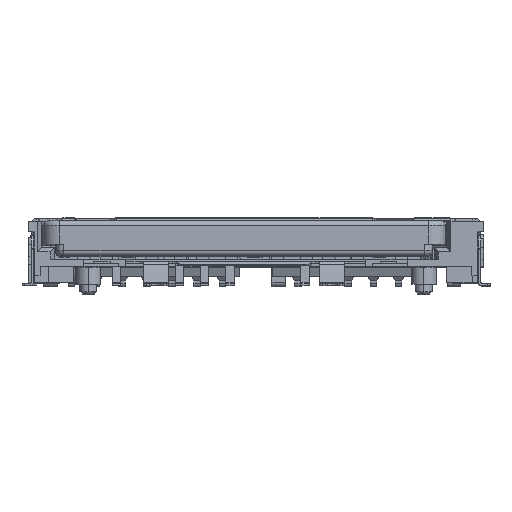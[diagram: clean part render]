
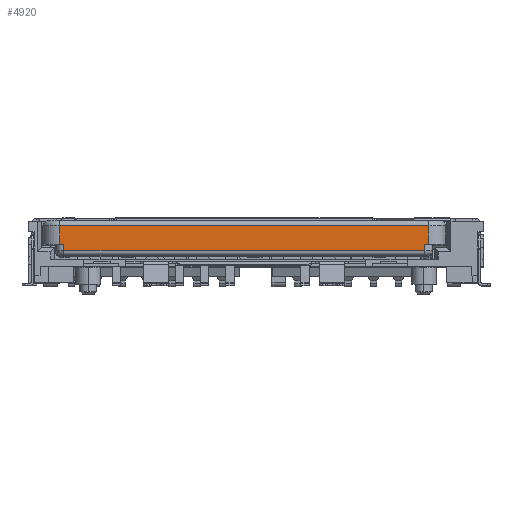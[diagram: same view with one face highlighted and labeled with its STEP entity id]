
A CAD part, top view. The second image highlights one B-rep face of the part: STEP entity #4920.
In plain terms, the highlighted planar face has unit normal (0, 0, 1).
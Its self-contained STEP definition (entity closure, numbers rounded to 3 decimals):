
#879=DIRECTION('',(-1.,0.,0.));
#880=VECTOR('',#879,21.5);
#881=CARTESIAN_POINT('',(10.75,-0.4,16.));
#882=LINE('',#881,#880);
#1725=DIRECTION('',(1.,0.,0.));
#1726=VECTOR('',#1725,22.);
#1727=CARTESIAN_POINT('',(-11.,1.1,16.));
#1728=LINE('',#1727,#1726);
#1756=DIRECTION('',(0.,1.,0.));
#1757=VECTOR('',#1756,1.1);
#1758=CARTESIAN_POINT('',(-11.,0.,16.));
#1759=LINE('',#1758,#1757);
#1768=DIRECTION('',(0.,1.,0.));
#1769=VECTOR('',#1768,0.4);
#1770=CARTESIAN_POINT('',(-10.75,-0.4,16.));
#1771=LINE('',#1770,#1769);
#1772=DIRECTION('',(-1.,0.,0.));
#1773=VECTOR('',#1772,0.25);
#1774=CARTESIAN_POINT('',(-10.75,0.,16.));
#1775=LINE('',#1774,#1773);
#1802=DIRECTION('',(0.,-1.,0.));
#1803=VECTOR('',#1802,1.1);
#1804=CARTESIAN_POINT('',(11.,1.1,16.));
#1805=LINE('',#1804,#1803);
#1819=DIRECTION('',(0.,-1.,0.));
#1820=VECTOR('',#1819,0.4);
#1821=CARTESIAN_POINT('',(10.75,0.,16.));
#1822=LINE('',#1821,#1820);
#1844=DIRECTION('',(-1.,0.,0.));
#1845=VECTOR('',#1844,0.25);
#1846=CARTESIAN_POINT('',(11.,0.,16.));
#1847=LINE('',#1846,#1845);
#2583=CARTESIAN_POINT('',(-11.,1.1,16.));
#2584=CARTESIAN_POINT('',(11.,1.1,16.));
#2585=VERTEX_POINT('',#2583);
#2586=VERTEX_POINT('',#2584);
#2715=CARTESIAN_POINT('',(-10.75,-0.4,16.));
#2716=VERTEX_POINT('',#2715);
#2825=CARTESIAN_POINT('',(10.75,-0.4,16.));
#2826=VERTEX_POINT('',#2825);
#2859=CARTESIAN_POINT('',(10.75,0.,16.));
#2861=VERTEX_POINT('',#2859);
#2885=CARTESIAN_POINT('',(-11.,0.,16.));
#2886=VERTEX_POINT('',#2885);
#2907=CARTESIAN_POINT('',(-10.75,0.,16.));
#2908=VERTEX_POINT('',#2907);
#2925=CARTESIAN_POINT('',(11.,0.,16.));
#2926=VERTEX_POINT('',#2925);
#4900=CARTESIAN_POINT('',(12.,1.4,16.));
#4901=DIRECTION('',(0.,0.,-1.));
#4902=DIRECTION('',(-1.,0.,0.));
#4903=AXIS2_PLACEMENT_3D('',#4900,#4901,#4902);
#4904=PLANE('',#4903);
#4906=ORIENTED_EDGE('',*,*,#4905,.T.);
#4908=ORIENTED_EDGE('',*,*,#4907,.T.);
#4909=ORIENTED_EDGE('',*,*,#4891,.T.);
#4910=ORIENTED_EDGE('',*,*,#4840,.T.);
#4912=ORIENTED_EDGE('',*,*,#4911,.T.);
#4914=ORIENTED_EDGE('',*,*,#4913,.T.);
#4916=ORIENTED_EDGE('',*,*,#4915,.T.);
#4917=ORIENTED_EDGE('',*,*,#3526,.T.);
#4918=EDGE_LOOP('',(#4906,#4908,#4909,#4910,#4912,#4914,#4916,#4917));
#4919=FACE_OUTER_BOUND('',#4918,.F.);
#4920=ADVANCED_FACE('',(#4919),#4904,.F.);
#3526=EDGE_CURVE('',#2826,#2716,#882,.T.);
#4840=EDGE_CURVE('',#2585,#2586,#1728,.T.);
#4891=EDGE_CURVE('',#2886,#2585,#1759,.T.);
#4905=EDGE_CURVE('',#2716,#2908,#1771,.T.);
#4907=EDGE_CURVE('',#2908,#2886,#1775,.T.);
#4911=EDGE_CURVE('',#2586,#2926,#1805,.T.);
#4913=EDGE_CURVE('',#2926,#2861,#1847,.T.);
#4915=EDGE_CURVE('',#2861,#2826,#1822,.T.);
